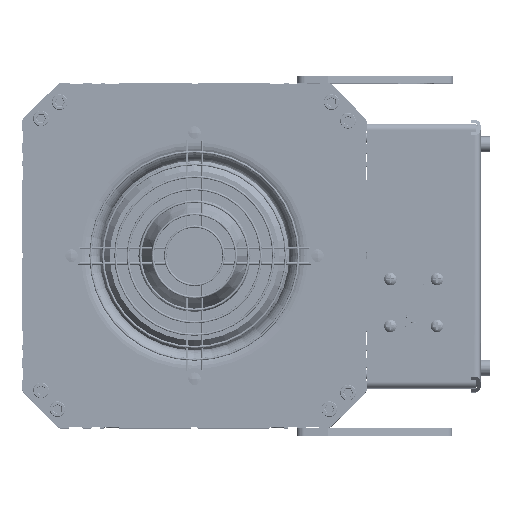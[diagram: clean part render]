
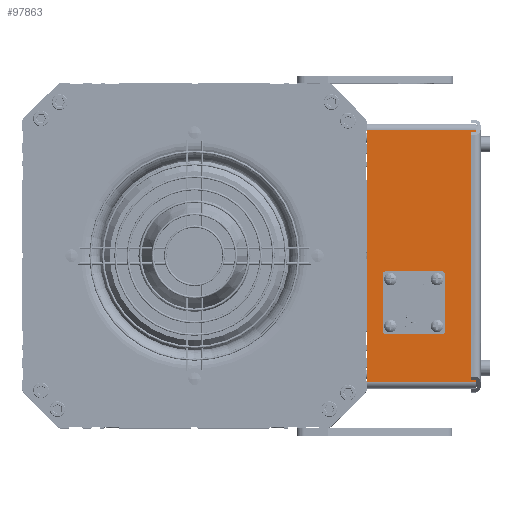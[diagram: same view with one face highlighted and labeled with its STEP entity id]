
A CAD part, top view. The second image highlights one B-rep face of the part: STEP entity #97863.
In plain terms, the highlighted planar face has unit normal (0, 0, 1) as drawn and (-1, 0, 0) by its records, which use the part's own axes.
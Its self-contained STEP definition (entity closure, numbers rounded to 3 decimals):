
#95866=DIRECTION('',(0.,-1.,0.));
#95867=VECTOR('',#95866,162.);
#95868=CARTESIAN_POINT('',(-80.,81.,0.));
#95869=LINE('',#95868,#95867);
#95941=DIRECTION('',(0.,0.,1.));
#95942=VECTOR('',#95941,70.);
#95943=CARTESIAN_POINT('',(-80.,-81.,0.));
#95944=LINE('',#95943,#95942);
#95949=DIRECTION('',(0.,-1.,0.));
#95950=VECTOR('',#95949,162.);
#95951=CARTESIAN_POINT('',(-80.,81.,70.));
#95952=LINE('',#95951,#95950);
#95953=CARTESIAN_POINT('',(-80.,-45.,45.));
#95954=DIRECTION('',(-1.,0.,0.));
#95955=DIRECTION('',(0.,0.,-1.));
#95956=AXIS2_PLACEMENT_3D('',#95953,#95954,#95955);
#95958=CARTESIAN_POINT('',(-80.,-45.,45.));
#95959=DIRECTION('',(-1.,0.,0.));
#95960=DIRECTION('',(0.,0.,1.));
#95961=AXIS2_PLACEMENT_3D('',#95958,#95959,#95960);
#95963=CARTESIAN_POINT('',(-80.,-45.,15.));
#95964=DIRECTION('',(-1.,0.,0.));
#95965=DIRECTION('',(0.,0.,-1.));
#95966=AXIS2_PLACEMENT_3D('',#95963,#95964,#95965);
#95968=CARTESIAN_POINT('',(-80.,-45.,15.));
#95969=DIRECTION('',(-1.,0.,0.));
#95970=DIRECTION('',(0.,0.,1.));
#95971=AXIS2_PLACEMENT_3D('',#95968,#95969,#95970);
#95973=CARTESIAN_POINT('',(-80.,-15.,15.));
#95974=DIRECTION('',(-1.,0.,0.));
#95975=DIRECTION('',(0.,0.,-1.));
#95976=AXIS2_PLACEMENT_3D('',#95973,#95974,#95975);
#95978=CARTESIAN_POINT('',(-80.,-15.,15.));
#95979=DIRECTION('',(-1.,0.,0.));
#95980=DIRECTION('',(0.,0.,1.));
#95981=AXIS2_PLACEMENT_3D('',#95978,#95979,#95980);
#95983=CARTESIAN_POINT('',(-80.,-15.,45.));
#95984=DIRECTION('',(-1.,0.,0.));
#95985=DIRECTION('',(0.,0.,-1.));
#95986=AXIS2_PLACEMENT_3D('',#95983,#95984,#95985);
#95988=CARTESIAN_POINT('',(-80.,-15.,45.));
#95989=DIRECTION('',(-1.,0.,0.));
#95990=DIRECTION('',(0.,0.,1.));
#95991=AXIS2_PLACEMENT_3D('',#95988,#95989,#95990);
#95993=CARTESIAN_POINT('',(-80.,-30.,30.));
#95994=DIRECTION('',(-1.,0.,0.));
#95995=DIRECTION('',(0.,0.,-1.));
#95996=AXIS2_PLACEMENT_3D('',#95993,#95994,#95995);
#95998=CARTESIAN_POINT('',(-80.,-30.,30.));
#95999=DIRECTION('',(-1.,0.,0.));
#96000=DIRECTION('',(0.,0.,1.));
#96001=AXIS2_PLACEMENT_3D('',#95998,#95999,#96000);
#96007=DIRECTION('',(0.,0.,-1.));
#96008=VECTOR('',#96007,70.);
#96009=CARTESIAN_POINT('',(-80.,81.,70.));
#96010=LINE('',#96009,#96008);
#97301=CARTESIAN_POINT('',(-80.,81.,0.));
#97302=VERTEX_POINT('',#97301);
#97303=CARTESIAN_POINT('',(-80.,-81.,0.));
#97304=VERTEX_POINT('',#97303);
#97333=CARTESIAN_POINT('',(-80.,-81.,70.));
#97334=VERTEX_POINT('',#97333);
#97335=CARTESIAN_POINT('',(-80.,81.,70.));
#97336=VERTEX_POINT('',#97335);
#97337=CARTESIAN_POINT('',(-80.,-45.,43.));
#97338=CARTESIAN_POINT('',(-80.,-45.,47.));
#97339=VERTEX_POINT('',#97337);
#97340=VERTEX_POINT('',#97338);
#97341=CARTESIAN_POINT('',(-80.,-45.,13.));
#97342=CARTESIAN_POINT('',(-80.,-45.,17.));
#97343=VERTEX_POINT('',#97341);
#97344=VERTEX_POINT('',#97342);
#97345=CARTESIAN_POINT('',(-80.,-15.,13.));
#97346=CARTESIAN_POINT('',(-80.,-15.,17.));
#97347=VERTEX_POINT('',#97345);
#97348=VERTEX_POINT('',#97346);
#97349=CARTESIAN_POINT('',(-80.,-15.,43.));
#97350=CARTESIAN_POINT('',(-80.,-15.,47.));
#97351=VERTEX_POINT('',#97349);
#97352=VERTEX_POINT('',#97350);
#97353=CARTESIAN_POINT('',(-80.,-30.,14.));
#97354=CARTESIAN_POINT('',(-80.,-30.,46.));
#97355=VERTEX_POINT('',#97353);
#97356=VERTEX_POINT('',#97354);
#97820=CARTESIAN_POINT('',(-80.,85.,0.));
#97821=DIRECTION('',(-1.,0.,0.));
#97822=DIRECTION('',(0.,-1.,0.));
#97823=AXIS2_PLACEMENT_3D('',#97820,#97821,#97822);
#97824=PLANE('',#97823);
#97826=ORIENTED_EDGE('',*,*,#97825,.F.);
#97828=ORIENTED_EDGE('',*,*,#97827,.T.);
#97829=ORIENTED_EDGE('',*,*,#97811,.F.);
#97830=ORIENTED_EDGE('',*,*,#97738,.F.);
#97831=EDGE_LOOP('',(#97826,#97828,#97829,#97830));
#97832=FACE_OUTER_BOUND('',#97831,.F.);
#97834=ORIENTED_EDGE('',*,*,#97833,.T.);
#97836=ORIENTED_EDGE('',*,*,#97835,.T.);
#97837=EDGE_LOOP('',(#97834,#97836));
#97838=FACE_BOUND('',#97837,.F.);
#97840=ORIENTED_EDGE('',*,*,#97839,.T.);
#97842=ORIENTED_EDGE('',*,*,#97841,.T.);
#97843=EDGE_LOOP('',(#97840,#97842));
#97844=FACE_BOUND('',#97843,.F.);
#97846=ORIENTED_EDGE('',*,*,#97845,.T.);
#97848=ORIENTED_EDGE('',*,*,#97847,.T.);
#97849=EDGE_LOOP('',(#97846,#97848));
#97850=FACE_BOUND('',#97849,.F.);
#97852=ORIENTED_EDGE('',*,*,#97851,.T.);
#97854=ORIENTED_EDGE('',*,*,#97853,.T.);
#97855=EDGE_LOOP('',(#97852,#97854));
#97856=FACE_BOUND('',#97855,.F.);
#97858=ORIENTED_EDGE('',*,*,#97857,.T.);
#97860=ORIENTED_EDGE('',*,*,#97859,.T.);
#97861=EDGE_LOOP('',(#97858,#97860));
#97862=FACE_BOUND('',#97861,.F.);
#97863=ADVANCED_FACE('',(#97832,#97838,#97844,#97850,#97856,#97862),#97824,.T.);
#95957=CIRCLE('',#95956,2.);
#95962=CIRCLE('',#95961,2.);
#95967=CIRCLE('',#95966,2.);
#95972=CIRCLE('',#95971,2.);
#95977=CIRCLE('',#95976,2.);
#95982=CIRCLE('',#95981,2.);
#95987=CIRCLE('',#95986,2.);
#95992=CIRCLE('',#95991,2.);
#95997=CIRCLE('',#95996,16.);
#96002=CIRCLE('',#96001,16.);
#97738=EDGE_CURVE('',#97302,#97304,#95869,.T.);
#97811=EDGE_CURVE('',#97304,#97334,#95944,.T.);
#97825=EDGE_CURVE('',#97336,#97302,#96010,.T.);
#97827=EDGE_CURVE('',#97336,#97334,#95952,.T.);
#97833=EDGE_CURVE('',#97339,#97340,#95957,.T.);
#97835=EDGE_CURVE('',#97340,#97339,#95962,.T.);
#97839=EDGE_CURVE('',#97343,#97344,#95967,.T.);
#97841=EDGE_CURVE('',#97344,#97343,#95972,.T.);
#97845=EDGE_CURVE('',#97347,#97348,#95977,.T.);
#97847=EDGE_CURVE('',#97348,#97347,#95982,.T.);
#97851=EDGE_CURVE('',#97351,#97352,#95987,.T.);
#97853=EDGE_CURVE('',#97352,#97351,#95992,.T.);
#97857=EDGE_CURVE('',#97355,#97356,#95997,.T.);
#97859=EDGE_CURVE('',#97356,#97355,#96002,.T.);
